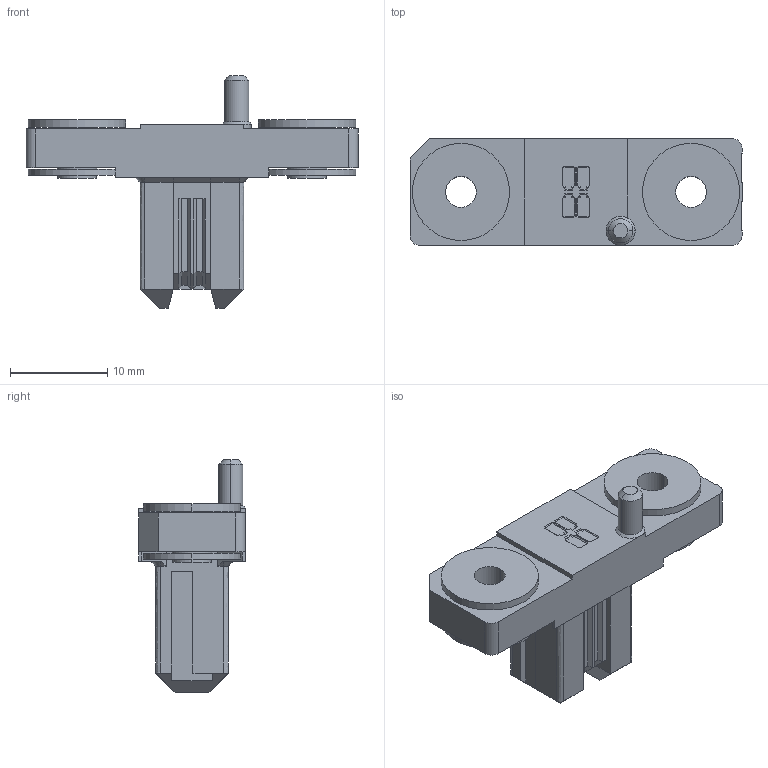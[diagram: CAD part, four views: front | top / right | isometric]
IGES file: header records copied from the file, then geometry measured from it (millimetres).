
Start section: Elysium IGES Interface
Bounding box: 34.2 x 11 x 24 mm (x, y, z)
Volume: 2711.9 mm3; surface area: 2440.8 mm2
Topology: 1 solids, 1 shells, 232 faces, 591 edges, 375 vertices
Faces by surface type: bspline 232
